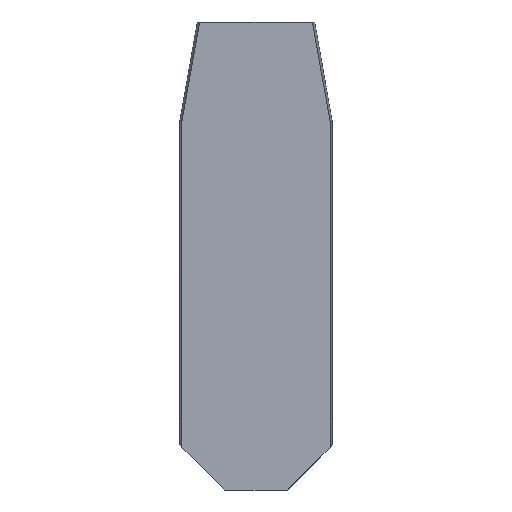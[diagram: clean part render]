
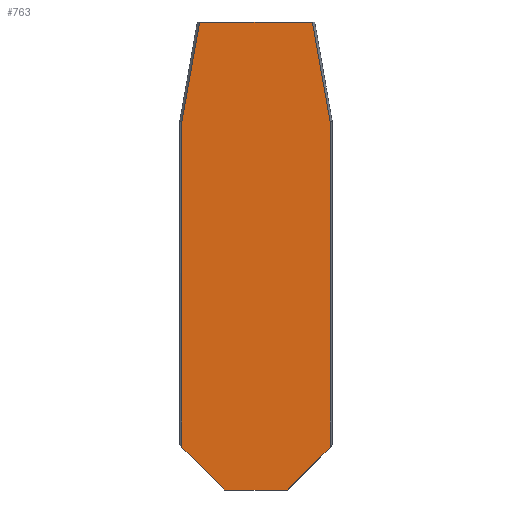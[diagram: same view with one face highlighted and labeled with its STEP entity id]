
A CAD part, front view. The second image highlights one B-rep face of the part: STEP entity #763.
In plain terms, the highlighted planar face has unit normal (0, -1, 0).
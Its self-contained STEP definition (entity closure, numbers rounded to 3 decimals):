
#40 = DIRECTION ( 'NONE',  ( 0., 0., -1. ) ) ;
#41 = EDGE_CURVE ( 'NONE', #318, #188, #271, .T. ) ;
#52 = DIRECTION ( 'NONE',  ( 0.707, 0., 0.707 ) ) ;
#56 = EDGE_CURVE ( 'NONE', #481, #754, #1349, .T. ) ;
#78 = CARTESIAN_POINT ( 'NONE',  ( 27., -214.709, 4.768 ) ) ;
#80 = ORIENTED_EDGE ( 'NONE', *, *, #586, .T. ) ;
#150 = PLANE ( 'NONE',  #939 ) ;
#154 = DIRECTION ( 'NONE',  ( 0., 1., 0. ) ) ;
#188 = VERTEX_POINT ( 'NONE', #327 ) ;
#196 = VECTOR ( 'NONE', #52, 1000. ) ;
#205 = CARTESIAN_POINT ( 'NONE',  ( 16.17, -214.709, 4.768 ) ) ;
#208 = LINE ( 'NONE', #635, #1258 ) ;
#219 = VERTEX_POINT ( 'NONE', #769 ) ;
#242 = EDGE_CURVE ( 'NONE', #281, #219, #1043, .T. ) ;
#248 = VECTOR ( 'NONE', #599, 1000. ) ;
#257 = CARTESIAN_POINT ( 'NONE',  ( 9.823, -214.709, 26.983 ) ) ;
#271 = LINE ( 'NONE', #1114, #896 ) ;
#279 = ORIENTED_EDGE ( 'NONE', *, *, #815, .T. ) ;
#280 = LINE ( 'NONE', #914, #679 ) ;
#281 = VERTEX_POINT ( 'NONE', #205 ) ;
#318 = VERTEX_POINT ( 'NONE', #836 ) ;
#327 = CARTESIAN_POINT ( 'NONE',  ( 18.76, -214.709, 7.358 ) ) ;
#363 = CARTESIAN_POINT ( 'NONE',  ( 10.891, -214.709, 32.983 ) ) ;
#368 = CARTESIAN_POINT ( 'NONE',  ( 10.179, -214.709, 28.983 ) ) ;
#382 = DIRECTION ( 'NONE',  ( 0., 0., -1. ) ) ;
#390 = LINE ( 'NONE', #1244, #196 ) ;
#434 = ORIENTED_EDGE ( 'NONE', *, *, #525, .T. ) ;
#448 = ORIENTED_EDGE ( 'NONE', *, *, #1104, .T. ) ;
#457 = B_SPLINE_CURVE_WITH_KNOTS ( 'NONE', 3,
 ( #363, #798, #368, #1336 ),
 .UNSPECIFIED., .F., .F.,
 ( 4, 4 ),
 ( 0., 0.006 ),
 .UNSPECIFIED. ) ;
#468 = FACE_OUTER_BOUND ( 'NONE', #610, .T. ) ;
#476 = CARTESIAN_POINT ( 'NONE',  ( 17.691, -214.709, 32.983 ) ) ;
#481 = VERTEX_POINT ( 'NONE', #800 ) ;
#502 = DIRECTION ( 'NONE',  ( -1., 0., 0. ) ) ;
#525 = EDGE_CURVE ( 'NONE', #281, #188, #390, .T. ) ;
#575 = ORIENTED_EDGE ( 'NONE', *, *, #807, .T. ) ;
#586 = EDGE_CURVE ( 'NONE', #318, #754, #762, .T. ) ;
#587 = ORIENTED_EDGE ( 'NONE', *, *, #41, .F. ) ;
#599 = DIRECTION ( 'NONE',  ( 1., 0., 0. ) ) ;
#610 = EDGE_LOOP ( 'NONE', ( #750, #575, #279, #448, #669, #434, #587, #80 ) ) ;
#635 = CARTESIAN_POINT ( 'NONE',  ( 12.412, -214.709, 4.768 ) ) ;
#669 = ORIENTED_EDGE ( 'NONE', *, *, #242, .F. ) ;
#679 = VECTOR ( 'NONE', #40, 1000. ) ;
#710 = CARTESIAN_POINT ( 'NONE',  ( 9.823, -214.709, 7.358 ) ) ;
#750 = ORIENTED_EDGE ( 'NONE', *, *, #56, .F. ) ;
#754 = VERTEX_POINT ( 'NONE', #1015 ) ;
#762 = B_SPLINE_CURVE_WITH_KNOTS ( 'NONE', 3,
 ( #1040, #846, #1134, #476 ),
 .UNSPECIFIED., .F., .F.,
 ( 4, 4 ),
 ( 0., 0.006 ),
 .UNSPECIFIED. ) ;
#763 = ADVANCED_FACE ( 'NONE', ( #468 ), #150, .F. ) ;
#769 = CARTESIAN_POINT ( 'NONE',  ( 12.412, -214.709, 4.768 ) ) ;
#798 = CARTESIAN_POINT ( 'NONE',  ( 10.535, -214.709, 30.983 ) ) ;
#800 = CARTESIAN_POINT ( 'NONE',  ( 10.891, -214.709, 32.983 ) ) ;
#807 = EDGE_CURVE ( 'NONE', #481, #845, #457, .T. ) ;
#815 = EDGE_CURVE ( 'NONE', #845, #920, #280, .T. ) ;
#836 = CARTESIAN_POINT ( 'NONE',  ( 18.76, -214.709, 26.983 ) ) ;
#845 = VERTEX_POINT ( 'NONE', #257 ) ;
#846 = CARTESIAN_POINT ( 'NONE',  ( 18.404, -214.709, 28.983 ) ) ;
#896 = VECTOR ( 'NONE', #382, 1000. ) ;
#914 = CARTESIAN_POINT ( 'NONE',  ( 9.823, -214.709, 32.983 ) ) ;
#920 = VERTEX_POINT ( 'NONE', #710 ) ;
#921 = CARTESIAN_POINT ( 'NONE',  ( 9.823, -214.709, 32.983 ) ) ;
#939 = AXIS2_PLACEMENT_3D ( 'NONE', #921, #154, #1325 ) ;
#1015 = CARTESIAN_POINT ( 'NONE',  ( 17.691, -214.709, 32.983 ) ) ;
#1040 = CARTESIAN_POINT ( 'NONE',  ( 18.76, -214.709, 26.983 ) ) ;
#1043 = LINE ( 'NONE', #78, #1332 ) ;
#1071 = DIRECTION ( 'NONE',  ( 0.707, 0., -0.707 ) ) ;
#1104 = EDGE_CURVE ( 'NONE', #920, #219, #208, .T. ) ;
#1114 = CARTESIAN_POINT ( 'NONE',  ( 18.76, -214.709, 32.983 ) ) ;
#1134 = CARTESIAN_POINT ( 'NONE',  ( 18.047, -214.709, 30.983 ) ) ;
#1225 = CARTESIAN_POINT ( 'NONE',  ( 9.823, -214.709, 32.983 ) ) ;
#1244 = CARTESIAN_POINT ( 'NONE',  ( 16.17, -214.709, 4.768 ) ) ;
#1258 = VECTOR ( 'NONE', #1071, 1000. ) ;
#1325 = DIRECTION ( 'NONE',  ( 0., 0., 1. ) ) ;
#1332 = VECTOR ( 'NONE', #502, 1000. ) ;
#1336 = CARTESIAN_POINT ( 'NONE',  ( 9.823, -214.709, 26.983 ) ) ;
#1349 = LINE ( 'NONE', #1225, #248 ) ;
